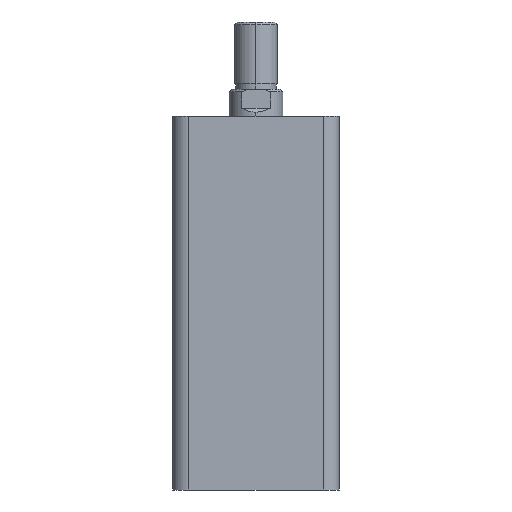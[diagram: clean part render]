
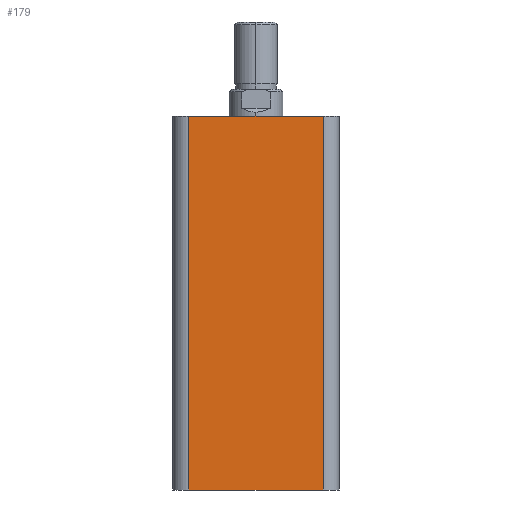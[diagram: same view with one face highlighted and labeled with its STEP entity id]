
A CAD part, left-side view. The second image highlights one B-rep face of the part: STEP entity #179.
In plain terms, the highlighted planar face has unit normal (-1, 0, 0).
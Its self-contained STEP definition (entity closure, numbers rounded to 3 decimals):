
#79 = FACE_OUTER_BOUND ( 'NONE', #1073, .T. ) ;
#179 = ADVANCED_FACE ( 'NONE', ( #79 ), #4817, .F. ) ;
#694 = CARTESIAN_POINT ( 'NONE',  ( -31., -25., 0. ) ) ;
#784 = CARTESIAN_POINT ( 'NONE',  ( -31., 25., 139. ) ) ;
#833 = CARTESIAN_POINT ( 'NONE',  ( -31., 25., 0. ) ) ;
#839 = CARTESIAN_POINT ( 'NONE',  ( -31., -25., 139. ) ) ;
#1073 = EDGE_LOOP ( 'NONE', ( #4071, #4072, #4073, #4074 ) ) ;
#1447 = LINE ( 'NONE', #3336, #1449 ) ;
#1449 = VECTOR ( 'NONE', #3337, 1000. ) ;
#1488 = LINE ( 'NONE', #3516, #1492 ) ;
#1492 = VECTOR ( 'NONE', #3514, 1000. ) ;
#1506 = LINE ( 'NONE', #3540, #1509 ) ;
#1508 = LINE ( 'NONE', #3542, #1511 ) ;
#1509 = VECTOR ( 'NONE', #3541, 1000. ) ;
#1511 = VECTOR ( 'NONE', #3543, 1000. ) ;
#1859 = AXIS2_PLACEMENT_3D ( 'NONE', #4821, #4815, #4814 ) ;
#3336 = CARTESIAN_POINT ( 'NONE',  ( -31., 31., 139. ) ) ;
#3337 = DIRECTION ( 'NONE',  ( 0., -1., 0. ) ) ;
#3514 = DIRECTION ( 'NONE',  ( 0., -1., 0. ) ) ;
#3516 = CARTESIAN_POINT ( 'NONE',  ( -31., 31., 0. ) ) ;
#3540 = CARTESIAN_POINT ( 'NONE',  ( -31., -25., 139. ) ) ;
#3541 = DIRECTION ( 'NONE',  ( 0., 0., 1. ) ) ;
#3542 = CARTESIAN_POINT ( 'NONE',  ( -31., 25., 139. ) ) ;
#3543 = DIRECTION ( 'NONE',  ( 0., 0., -1. ) ) ;
#3810 = EDGE_CURVE ( 'NONE', #4593, #4648, #1447, .T. ) ;
#3845 = EDGE_CURVE ( 'NONE', #4642, #4502, #1488, .T. ) ;
#3855 = EDGE_CURVE ( 'NONE', #4502, #4648, #1506, .T. ) ;
#3856 = EDGE_CURVE ( 'NONE', #4593, #4642, #1508, .T. ) ;
#4071 = ORIENTED_EDGE ( 'NONE', *, *, #3845, .T. ) ;
#4072 = ORIENTED_EDGE ( 'NONE', *, *, #3855, .T. ) ;
#4073 = ORIENTED_EDGE ( 'NONE', *, *, #3810, .F. ) ;
#4074 = ORIENTED_EDGE ( 'NONE', *, *, #3856, .T. ) ;
#4502 = VERTEX_POINT ( 'NONE', #694 ) ;
#4593 = VERTEX_POINT ( 'NONE', #784 ) ;
#4642 = VERTEX_POINT ( 'NONE', #833 ) ;
#4648 = VERTEX_POINT ( 'NONE', #839 ) ;
#4814 = DIRECTION ( 'NONE',  ( 0., 0., -1. ) ) ;
#4815 = DIRECTION ( 'NONE',  ( 1., 0., 0. ) ) ;
#4817 = PLANE ( 'NONE',  #1859 ) ;
#4821 = CARTESIAN_POINT ( 'NONE',  ( -31., 31., 139. ) ) ;
